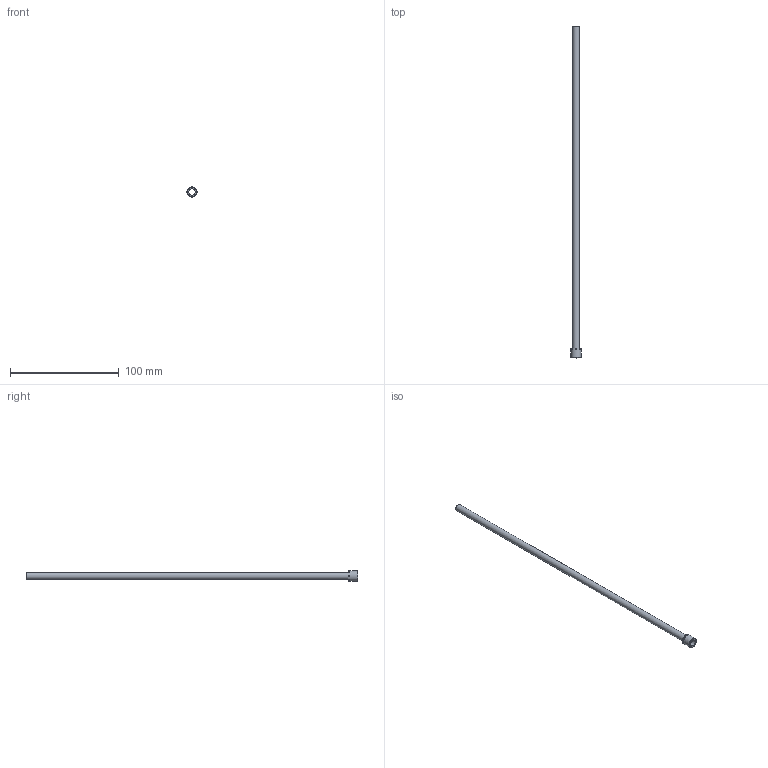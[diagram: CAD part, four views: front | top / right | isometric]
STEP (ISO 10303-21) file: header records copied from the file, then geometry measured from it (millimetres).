
FILE_DESCRIPTION(/* description */ (''),/* implementation_level */ '2;1');
FILE_NAME(/* name */ 'C:/Users/drich/Desktop/JHF250T-12 v1.step',/* time_stamp */ '2020-01-02T19:59:10-06:00',/* author */ (''),/* organization */ (''),/* preprocessor_version */ 'ST-DEVELOPER v18',/* originating_system */ 'Autodesk Translation Framework v8.12.0.6',/* authorisation */ '');
FILE_SCHEMA (('AUTOMOTIVE_DESIGN { 1 0 10303 214 3 1 1 }'));
Length unit declared in the file: inch
Products named in the file (1): JHF250T-12
Bounding box: 9.58 x 304.8 x 9.58 mm (x, y, z)
Volume: 1831.1 mm3; surface area: 11842.4 mm2
Topology: 1 solids, 1 shells, 10 faces, 24 edges, 18 vertices
Faces by surface type: cylinder 4, plane 4, cone 1, torus 1
Full cylindrical faces by diameter (mm): 5.842 x1, 6.35 x1, 9.434 x1, 9.576 x1
Entity records: 354 total; most frequent: DIRECTION 65, CARTESIAN_POINT 53, ORIENTED_EDGE 48, AXIS2_PLACEMENT_3D 30, EDGE_CURVE 24, CIRCLE 19, VERTEX_POINT 18, EDGE_LOOP 14
